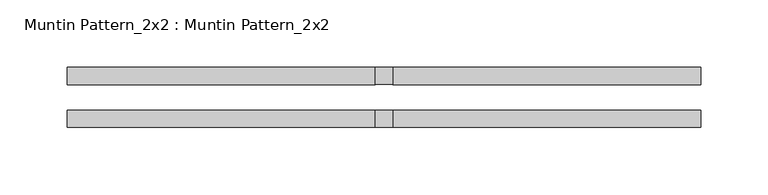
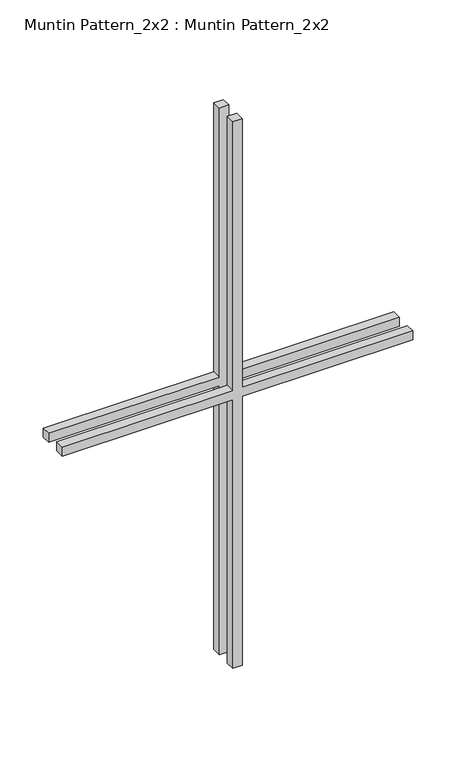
"""IFC4 building model written with IfcOpenShell, lengths in millimetres: proxy geometry, Muntin Pattern_2x2 : Muntin Pattern_2x2."""

from ifc_helpers import new_model, si_unit, frame, origin, place, context, project, spatial, polyline, outline, extrude, source, transform, mapped, element, save


def muntin_pattern_2x2_muntin_pattern_2x2_cf4092f1(model_context):
    return source(origin(), model_context, "Body", "SweptSolid", [
        extrude(outline(polyline([(393.7, -6.35), (393.7, -234.95), (381.0, -234.95), (381.0, -6.35), (0.0, -6.35), (0.0, 6.35), (381.0, 6.35), (381.0, 234.95), (393.7, 234.95), (393.7, 6.35), (774.7, 6.35), (774.7, -6.35), (393.7, -6.35)])), frame((0.0, 9.525, 0.0), z_axis=(0.0, 1.0, 0.0), x_axis=(0.0, 0.0, 1.0)), (0.0, 0.0, 1.0), 12.7),
        extrude(outline(polyline([(393.7, -6.35), (393.7, -234.95), (381.0, -234.95), (381.0, -6.35), (0.0, -6.35), (0.0, 6.35), (381.0, 6.35), (381.0, 234.95), (393.7, 234.95), (393.7, 6.35), (774.7, 6.35), (774.7, -6.35), (393.7, -6.35)])), frame((0.0, -22.225, 0.0), z_axis=(0.0, 1.0, 0.0), x_axis=(0.0, 0.0, 1.0)), (0.0, 0.0, 1.0), 12.7),
    ])


if __name__ == "__main__":
    model = new_model("IFC4")
    model_context = context("Model", 3, world=origin())
    ifc_project = project(units=[si_unit("LENGTHUNIT", "METRE", prefix="MILLI")], contexts=[model_context])
    site = spatial("IfcSite", under=ifc_project)
    building = spatial("IfcBuilding", under=site)
    placement = place(None, origin())
    muntin_pattern_2x2_muntin_pattern_2x2_shape = muntin_pattern_2x2_muntin_pattern_2x2_cf4092f1(model_context)
    element("IfcBuildingElementProxy", 1, Name="Muntin Pattern_2x2 : Muntin Pattern_2x2", ObjectType="Muntin Pattern_2x2 : Muntin Pattern_2x2", at=placement, inside=building, context=model_context, shape_type="MappedRepresentation", body=[
        mapped(muntin_pattern_2x2_muntin_pattern_2x2_shape, transform((0.0, 0.0, 0.0), x_axis=(1.0, 0.0, 0.0), y_axis=(0.0, 1.0, 0.0), z_axis=(0.0, 0.0, 1.0))),
    ])
    save(model, "model.ifc")
